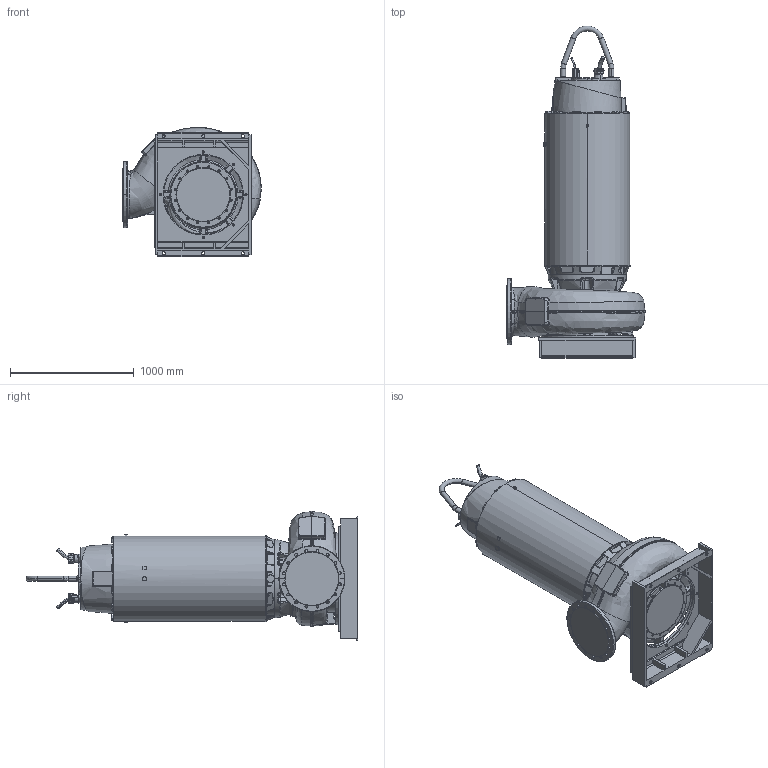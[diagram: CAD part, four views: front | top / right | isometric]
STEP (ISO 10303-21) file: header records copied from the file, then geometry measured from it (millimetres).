
FILE_DESCRIPTION (( 'STEP AP214' ), '1' );
FILE_NAME ('PE6_XFP351M-CH3_DRY_C_NG2.STEP', '2017-03-22T07:17:55', ( '' ), ( '' ), 'SwSTEP 2.0', 'SolidWorks 2017', '' );
FILE_SCHEMA (( 'AUTOMOTIVE_DESIGN' ));
Length unit declared in the file: millimetre
Products named in the file (1): PE6_XFP351M-CH3_DRY_C_NG2
Bounding box: 1118.47 x 2681 x 1043.87 mm (x, y, z)
Volume: 844138977.4 mm3; surface area: 9341435.6 mm2
Topology: 3 solids, 15 shells, 3108 faces, 7813 edges, 4615 vertices
Faces by surface type: plane 852, bspline 798, cylinder 678, cone 336, torus 318, sphere 126
Entity records: 206717 total; most frequent: CARTESIAN_POINT 105300, ORIENTED_EDGE 15246, DIRECTION 12460, EDGE_CURVE 7623, AXIS2_PLACEMENT_3D 4944, VERTEX_POINT 4615, EDGE_LOOP 3308, UNCERTAINTY_MEASURE_WITH_UNIT 3113
